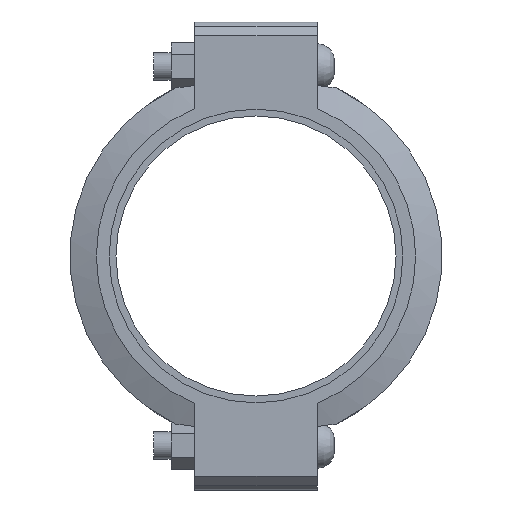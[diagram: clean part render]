
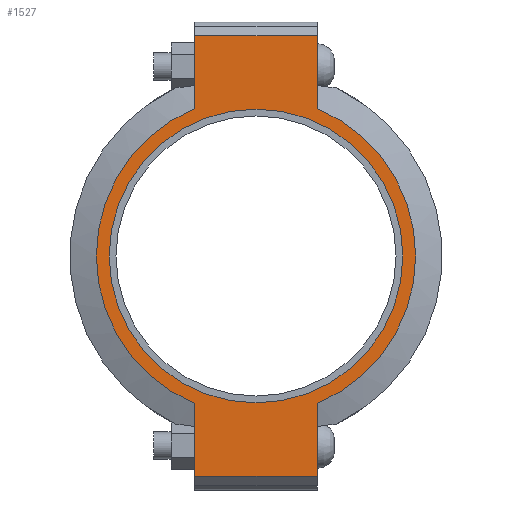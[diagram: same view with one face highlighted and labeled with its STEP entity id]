
A CAD part, left-side view. The second image highlights one B-rep face of the part: STEP entity #1527.
In plain terms, the highlighted planar face has unit normal (-1, 0, 0) as drawn and (0, 0, 1) by its records, which use the part's own axes.
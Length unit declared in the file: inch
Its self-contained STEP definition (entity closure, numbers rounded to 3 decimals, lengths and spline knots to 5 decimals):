
#154=LINE('',#2603,#241);
#165=LINE('',#2654,#252);
#171=LINE('',#2680,#258);
#173=LINE('',#2683,#260);
#174=LINE('',#2688,#261);
#175=LINE('',#2689,#262);
#241=VECTOR('',#2105,0.3937);
#252=VECTOR('',#2136,0.3937);
#258=VECTOR('',#2154,0.3937);
#260=VECTOR('',#2158,0.3937);
#261=VECTOR('',#2163,0.3937);
#262=VECTOR('',#2164,0.3937);
#320=FACE_BOUND('',#479,.T.);
#380=FACE_OUTER_BOUND('',#478,.T.);
#478=EDGE_LOOP('',(#1216,#1217,#1218,#1219,#1220,#1221,#1222,#1223));
#479=EDGE_LOOP('',(#1224));
#584=CIRCLE('',#1772,5.845);
#585=CIRCLE('',#1773,5.845);
#586=CIRCLE('',#1774,5.375);
#693=VERTEX_POINT('',#2600);
#694=VERTEX_POINT('',#2602);
#711=VERTEX_POINT('',#2649);
#712=VERTEX_POINT('',#2653);
#719=VERTEX_POINT('',#2675);
#720=VERTEX_POINT('',#2679);
#721=VERTEX_POINT('',#2685);
#722=VERTEX_POINT('',#2687);
#723=VERTEX_POINT('',#2691);
#863=EDGE_CURVE('',#694,#693,#154,.T.);
#884=EDGE_CURVE('',#712,#711,#165,.T.);
#895=EDGE_CURVE('',#720,#719,#171,.T.);
#897=EDGE_CURVE('',#720,#693,#173,.T.);
#898=EDGE_CURVE('',#719,#721,#584,.T.);
#899=EDGE_CURVE('',#721,#722,#174,.T.);
#900=EDGE_CURVE('',#712,#722,#175,.T.);
#901=EDGE_CURVE('',#711,#694,#585,.T.);
#902=EDGE_CURVE('',#723,#723,#586,.T.);
#1216=ORIENTED_EDGE('',*,*,#897,.F.);
#1217=ORIENTED_EDGE('',*,*,#895,.T.);
#1218=ORIENTED_EDGE('',*,*,#898,.T.);
#1219=ORIENTED_EDGE('',*,*,#899,.T.);
#1220=ORIENTED_EDGE('',*,*,#900,.F.);
#1221=ORIENTED_EDGE('',*,*,#884,.T.);
#1222=ORIENTED_EDGE('',*,*,#901,.T.);
#1223=ORIENTED_EDGE('',*,*,#863,.T.);
#1224=ORIENTED_EDGE('',*,*,#902,.T.);
#1379=PLANE('',#1771);
#1527=ADVANCED_FACE('',(#380,#320),#1379,.T.);
#1771=AXIS2_PLACEMENT_3D('',#2684,#2159,#2160);
#1772=AXIS2_PLACEMENT_3D('',#2686,#2161,#2162);
#1773=AXIS2_PLACEMENT_3D('',#2690,#2165,#2166);
#1774=AXIS2_PLACEMENT_3D('',#2692,#2167,#2168);
#2105=DIRECTION('',(-1.,0.,0.));
#2136=DIRECTION('',(-1.,0.,0.));
#2154=DIRECTION('',(1.,0.,0.));
#2158=DIRECTION('',(0.,1.,0.));
#2159=DIRECTION('center_axis',(0.,0.,1.));
#2160=DIRECTION('ref_axis',(1.,0.,0.));
#2161=DIRECTION('center_axis',(0.,0.,1.));
#2162=DIRECTION('ref_axis',(-1.,0.,0.));
#2163=DIRECTION('',(1.,0.,0.));
#2164=DIRECTION('',(0.,-1.,0.));
#2165=DIRECTION('center_axis',(0.,0.,1.));
#2166=DIRECTION('ref_axis',(-1.,0.,0.));
#2167=DIRECTION('center_axis',(0.,0.,-1.));
#2168=DIRECTION('ref_axis',(-1.,0.,0.));
#2600=CARTESIAN_POINT('',(-8.065,2.25,1.315));
#2602=CARTESIAN_POINT('',(-5.39458,2.25,1.315));
#2603=CARTESIAN_POINT('',(8.565,2.25,1.315));
#2649=CARTESIAN_POINT('',(5.39458,2.25,1.315));
#2653=CARTESIAN_POINT('',(8.065,2.25,1.315));
#2654=CARTESIAN_POINT('',(8.565,2.25,1.315));
#2675=CARTESIAN_POINT('',(-5.39458,-2.25,1.315));
#2679=CARTESIAN_POINT('',(-8.065,-2.25,1.315));
#2680=CARTESIAN_POINT('',(-8.565,-2.25,1.315));
#2683=CARTESIAN_POINT('',(-8.065,1.125,1.315));
#2684=CARTESIAN_POINT('Origin',(0.,0.,
1.315));
#2685=CARTESIAN_POINT('',(5.39458,-2.25,1.315));
#2686=CARTESIAN_POINT('Origin',(0.,0.,1.315));
#2687=CARTESIAN_POINT('',(8.065,-2.25,1.315));
#2688=CARTESIAN_POINT('',(-8.565,-2.25,1.315));
#2689=CARTESIAN_POINT('',(8.065,-1.125,1.315));
#2690=CARTESIAN_POINT('Origin',(0.,0.,1.315));
#2691=CARTESIAN_POINT('',(5.375,0.,1.315));
#2692=CARTESIAN_POINT('Origin',(0.,0.,1.315));
